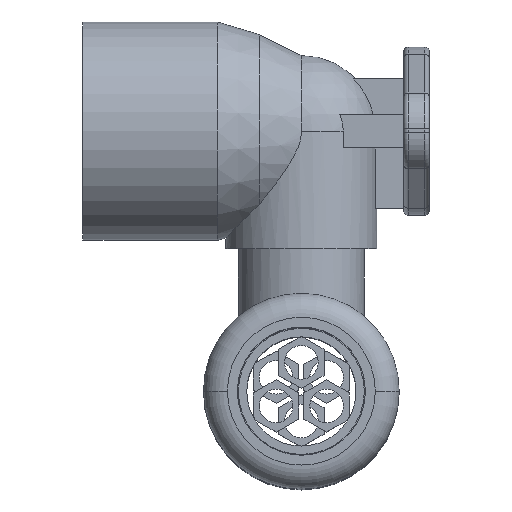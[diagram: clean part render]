
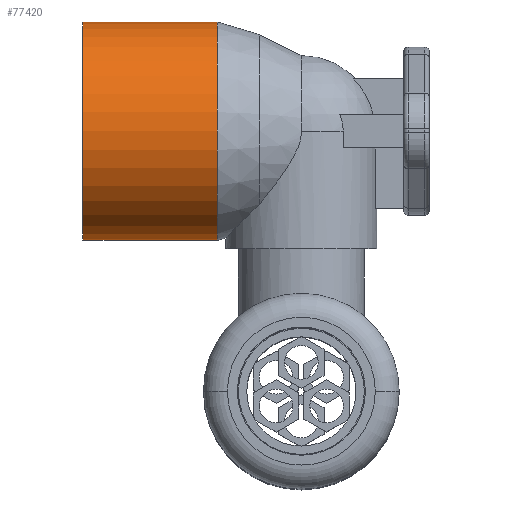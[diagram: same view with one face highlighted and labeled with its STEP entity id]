
A CAD part, top view. The second image highlights one B-rep face of the part: STEP entity #77420.
In plain terms, the highlighted cylindrical face has radius 13 mm (diameter 26 mm), a partial arc.
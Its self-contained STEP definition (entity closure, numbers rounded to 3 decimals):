
#31870=CARTESIAN_POINT('',(32.434,51.599,-38.2));
#31880=DIRECTION('',(0.,0.,1.));
#31890=DIRECTION('',(0.,1.,0.));
#31900=AXIS2_PLACEMENT_3D('',#31870,#31880,#31890);
#31910=CIRCLE('',#31900,13.);
#31920=CARTESIAN_POINT('',(32.434,64.599,-38.2));
#31930=VERTEX_POINT('',#31920);
#31940=CARTESIAN_POINT('',(32.434,38.599,-38.2));
#31950=VERTEX_POINT('',#31940);
#31960=EDGE_CURVE('',#31930,#31950,#31910,.T.);
#32030=CARTESIAN_POINT('',(32.434,51.599,-22.2));
#32040=DIRECTION('',(0.,0.,1.));
#32050=DIRECTION('',(0.,1.,0.));
#32060=AXIS2_PLACEMENT_3D('',#32030,#32040,#32050);
#32070=CYLINDRICAL_SURFACE('',#32060,13.);
#32080=CARTESIAN_POINT('',(32.434,38.599,-22.2));
#32090=DIRECTION('',(0.,0.,1.));
#32100=VECTOR('',#32090,1.);
#32110=LINE('',#32080,#32100);
#32120=CARTESIAN_POINT('',(32.434,38.599,-22.2));
#32130=VERTEX_POINT('',#32120);
#32140=EDGE_CURVE('',#31950,#32130,#32110,.T.);
#32160=CARTESIAN_POINT('',(32.434,51.599,-22.2));
#32170=DIRECTION('',(0.,0.,-1.));
#32180=DIRECTION('',(0.,1.,0.));
#32190=AXIS2_PLACEMENT_3D('',#32160,#32170,#32180);
#32200=CIRCLE('',#32190,13.);
#32210=CARTESIAN_POINT('',(32.434,64.599,-22.2));
#32220=VERTEX_POINT('',#32210);
#32250=CARTESIAN_POINT('',(32.434,64.599,-22.2));
#32260=DIRECTION('',(0.,0.,1.));
#32270=VECTOR('',#32260,1.);
#32280=LINE('',#32250,#32270);
#32290=EDGE_CURVE('',#31930,#32220,#32280,.T.);
#32570=EDGE_CURVE('',#32130,#32220,#32200,.T.);
#77360=ORIENTED_EDGE('',*,*,#32140,.T.);
#77370=ORIENTED_EDGE('',*,*,#31960,.T.);
#77380=ORIENTED_EDGE('',*,*,#32290,.F.);
#77390=ORIENTED_EDGE('',*,*,#32570,.T.);
#77400=EDGE_LOOP('',(#77390,#77380,#77370,#77360));
#77410=FACE_OUTER_BOUND('',#77400,.T.);
#77420=ADVANCED_FACE('',(#77410),#32070,.T.);
